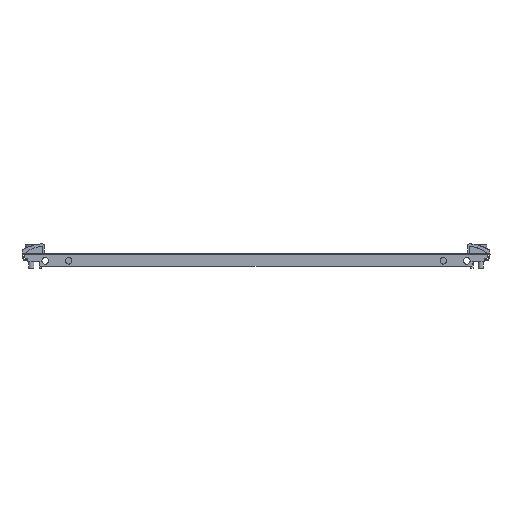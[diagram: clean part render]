
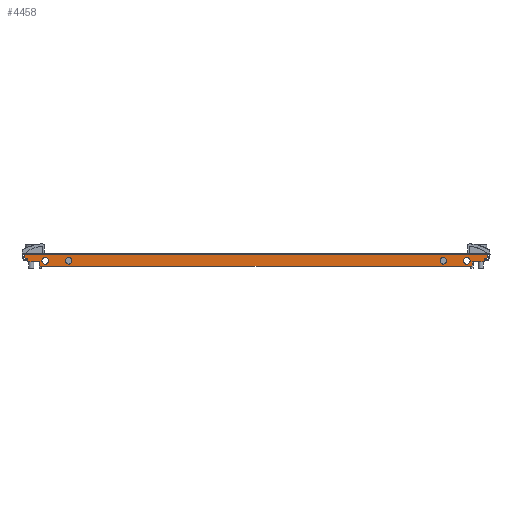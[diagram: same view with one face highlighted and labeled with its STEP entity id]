
A CAD part, front view. The second image highlights one B-rep face of the part: STEP entity #4458.
In plain terms, the highlighted planar face has unit normal (0, -1, 0).
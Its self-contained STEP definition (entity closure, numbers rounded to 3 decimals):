
#2=CARTESIAN_POINT('',(24.75,0.,6.));
#3=DIRECTION('',(0.,1.,0.));
#4=DIRECTION('',(0.,0.,-1.));
#5=AXIS2_PLACEMENT_3D('',#2,#3,#4);
#7=CARTESIAN_POINT('',(24.75,0.,6.));
#8=DIRECTION('',(0.,1.,0.));
#9=DIRECTION('',(0.,0.,1.));
#10=AXIS2_PLACEMENT_3D('',#7,#8,#9);
#12=CARTESIAN_POINT('',(473.95,0.,6.));
#13=DIRECTION('',(0.,1.,0.));
#14=DIRECTION('',(0.,0.,-1.));
#15=AXIS2_PLACEMENT_3D('',#12,#13,#14);
#17=CARTESIAN_POINT('',(473.95,0.,6.));
#18=DIRECTION('',(0.,1.,0.));
#19=DIRECTION('',(0.,0.,1.));
#20=AXIS2_PLACEMENT_3D('',#17,#18,#19);
#22=DIRECTION('',(0.,0.,-1.));
#23=VECTOR('',#22,2.543);
#24=CARTESIAN_POINT('',(2.281,0.,14.));
#25=LINE('',#24,#23);
#26=DIRECTION('',(0.,0.,-1.));
#27=VECTOR('',#26,2.543);
#28=CARTESIAN_POINT('',(496.419,0.,14.));
#29=LINE('',#28,#27);
#30=DIRECTION('',(0.259,0.,0.966));
#31=VECTOR('',#30,3.579);
#32=CARTESIAN_POINT('',(495.492,0.,8.));
#33=LINE('',#32,#31);
#34=DIRECTION('',(1.,0.,0.));
#35=VECTOR('',#34,3.042);
#36=CARTESIAN_POINT('',(492.45,0.,8.));
#37=LINE('',#36,#35);
#38=DIRECTION('',(0.,0.,1.));
#39=VECTOR('',#38,2.85);
#40=CARTESIAN_POINT('',(492.45,0.,5.15));
#41=LINE('',#40,#39);
#42=DIRECTION('',(1.,0.,0.));
#43=VECTOR('',#42,12.5);
#44=CARTESIAN_POINT('',(479.95,0.,5.15));
#45=LINE('',#44,#43);
#46=DIRECTION('',(0.,0.,1.));
#47=VECTOR('',#46,3.15);
#48=CARTESIAN_POINT('',(479.95,0.,2.));
#49=LINE('',#48,#47);
#50=DIRECTION('',(0.447,0.,0.894));
#51=VECTOR('',#50,2.236);
#52=CARTESIAN_POINT('',(478.95,0.,0.));
#53=LINE('',#52,#51);
#54=DIRECTION('',(1.,0.,0.));
#55=VECTOR('',#54,459.2);
#56=CARTESIAN_POINT('',(19.75,0.,0.));
#57=LINE('',#56,#55);
#58=DIRECTION('',(0.447,0.,-0.894));
#59=VECTOR('',#58,2.236);
#60=CARTESIAN_POINT('',(18.75,0.,2.));
#61=LINE('',#60,#59);
#62=DIRECTION('',(0.,0.,-1.));
#63=VECTOR('',#62,3.15);
#64=CARTESIAN_POINT('',(18.75,0.,5.15));
#65=LINE('',#64,#63);
#66=DIRECTION('',(1.,0.,0.));
#67=VECTOR('',#66,12.5);
#68=CARTESIAN_POINT('',(6.25,0.,5.15));
#69=LINE('',#68,#67);
#70=DIRECTION('',(0.,0.,-1.));
#71=VECTOR('',#70,2.85);
#72=CARTESIAN_POINT('',(6.25,0.,8.));
#73=LINE('',#72,#71);
#74=DIRECTION('',(1.,0.,0.));
#75=VECTOR('',#74,3.042);
#76=CARTESIAN_POINT('',(3.208,0.,8.));
#77=LINE('',#76,#75);
#78=DIRECTION('',(0.259,0.,-0.966));
#79=VECTOR('',#78,3.579);
#80=CARTESIAN_POINT('',(2.281,0.,11.457));
#81=LINE('',#80,#79);
#82=CARTESIAN_POINT('',(448.95,0.,6.));
#83=DIRECTION('',(0.,1.,0.));
#84=DIRECTION('',(-1.,0.,0.));
#85=AXIS2_PLACEMENT_3D('',#82,#83,#84);
#87=CARTESIAN_POINT('',(448.95,0.,6.));
#88=DIRECTION('',(0.,1.,0.));
#89=DIRECTION('',(1.,0.,0.));
#90=AXIS2_PLACEMENT_3D('',#87,#88,#89);
#92=CARTESIAN_POINT('',(49.75,0.,6.));
#93=DIRECTION('',(0.,1.,0.));
#94=DIRECTION('',(-1.,0.,0.));
#95=AXIS2_PLACEMENT_3D('',#92,#93,#94);
#97=CARTESIAN_POINT('',(49.75,0.,6.));
#98=DIRECTION('',(0.,1.,0.));
#99=DIRECTION('',(1.,0.,0.));
#100=AXIS2_PLACEMENT_3D('',#97,#98,#99);
#310=DIRECTION('',(1.,0.,0.));
#311=VECTOR('',#310,494.137);
#312=CARTESIAN_POINT('',(2.281,0.,14.));
#313=LINE('',#312,#311);
#3536=CARTESIAN_POINT('',(24.75,0.,2.35));
#3538=VERTEX_POINT('',#3536);
#3540=CARTESIAN_POINT('',(24.75,0.,9.65));
#3542=VERTEX_POINT('',#3540);
#3544=CARTESIAN_POINT('',(2.281,0.,11.457));
#3546=VERTEX_POINT('',#3544);
#3548=CARTESIAN_POINT('',(3.208,0.,8.));
#3550=VERTEX_POINT('',#3548);
#3552=CARTESIAN_POINT('',(6.25,0.,8.));
#3554=VERTEX_POINT('',#3552);
#3556=CARTESIAN_POINT('',(6.25,0.,5.15));
#3558=VERTEX_POINT('',#3556);
#3560=CARTESIAN_POINT('',(18.75,0.,5.15));
#3562=VERTEX_POINT('',#3560);
#3564=CARTESIAN_POINT('',(18.75,0.,2.));
#3566=VERTEX_POINT('',#3564);
#3572=CARTESIAN_POINT('',(473.95,0.,2.35));
#3574=VERTEX_POINT('',#3572);
#3576=CARTESIAN_POINT('',(473.95,0.,9.65));
#3578=VERTEX_POINT('',#3576);
#3580=CARTESIAN_POINT('',(479.95,0.,2.));
#3582=VERTEX_POINT('',#3580);
#3584=CARTESIAN_POINT('',(479.95,0.,5.15));
#3586=VERTEX_POINT('',#3584);
#3588=CARTESIAN_POINT('',(492.45,0.,5.15));
#3590=VERTEX_POINT('',#3588);
#3592=CARTESIAN_POINT('',(492.45,0.,8.));
#3594=VERTEX_POINT('',#3592);
#3596=CARTESIAN_POINT('',(495.492,0.,8.));
#3598=VERTEX_POINT('',#3596);
#3600=CARTESIAN_POINT('',(496.419,0.,11.457));
#3602=VERTEX_POINT('',#3600);
#3604=CARTESIAN_POINT('',(2.281,0.,14.));
#3605=VERTEX_POINT('',#3604);
#3606=CARTESIAN_POINT('',(19.75,0.,0.));
#3607=VERTEX_POINT('',#3606);
#3608=CARTESIAN_POINT('',(478.95,0.,0.));
#3609=VERTEX_POINT('',#3608);
#3610=CARTESIAN_POINT('',(496.419,0.,14.));
#3611=VERTEX_POINT('',#3610);
#3736=CARTESIAN_POINT('',(445.45,0.,6.));
#3737=CARTESIAN_POINT('',(452.45,0.,6.));
#3738=VERTEX_POINT('',#3736);
#3739=VERTEX_POINT('',#3737);
#3740=CARTESIAN_POINT('',(46.25,0.,6.));
#3741=CARTESIAN_POINT('',(53.25,0.,6.));
#3742=VERTEX_POINT('',#3740);
#3743=VERTEX_POINT('',#3741);
#4395=CARTESIAN_POINT('',(0.,0.,0.));
#4396=DIRECTION('',(0.,-1.,0.));
#4397=DIRECTION('',(0.,0.,1.));
#4398=AXIS2_PLACEMENT_3D('',#4395,#4396,#4397);
#4399=PLANE('',#4398);
#4401=ORIENTED_EDGE('',*,*,#4400,.F.);
#4403=ORIENTED_EDGE('',*,*,#4402,.T.);
#4405=ORIENTED_EDGE('',*,*,#4404,.T.);
#4407=ORIENTED_EDGE('',*,*,#4406,.F.);
#4409=ORIENTED_EDGE('',*,*,#4408,.F.);
#4411=ORIENTED_EDGE('',*,*,#4410,.F.);
#4413=ORIENTED_EDGE('',*,*,#4412,.F.);
#4415=ORIENTED_EDGE('',*,*,#4414,.F.);
#4417=ORIENTED_EDGE('',*,*,#4416,.F.);
#4419=ORIENTED_EDGE('',*,*,#4418,.F.);
#4421=ORIENTED_EDGE('',*,*,#4420,.F.);
#4423=ORIENTED_EDGE('',*,*,#4422,.F.);
#4425=ORIENTED_EDGE('',*,*,#4424,.F.);
#4427=ORIENTED_EDGE('',*,*,#4426,.F.);
#4429=ORIENTED_EDGE('',*,*,#4428,.F.);
#4431=ORIENTED_EDGE('',*,*,#4430,.F.);
#4432=EDGE_LOOP('',(#4401,#4403,#4405,#4407,#4409,#4411,#4413,#4415,#4417,#4419,
#4421,#4423,#4425,#4427,#4429,#4431));
#4433=FACE_OUTER_BOUND('',#4432,.F.);
#4435=ORIENTED_EDGE('',*,*,#4434,.F.);
#4437=ORIENTED_EDGE('',*,*,#4436,.F.);
#4438=EDGE_LOOP('',(#4435,#4437));
#4439=FACE_BOUND('',#4438,.F.);
#4441=ORIENTED_EDGE('',*,*,#4440,.F.);
#4443=ORIENTED_EDGE('',*,*,#4442,.F.);
#4444=EDGE_LOOP('',(#4441,#4443));
#4445=FACE_BOUND('',#4444,.F.);
#4447=ORIENTED_EDGE('',*,*,#4446,.F.);
#4449=ORIENTED_EDGE('',*,*,#4448,.F.);
#4450=EDGE_LOOP('',(#4447,#4449));
#4451=FACE_BOUND('',#4450,.F.);
#4453=ORIENTED_EDGE('',*,*,#4452,.F.);
#4455=ORIENTED_EDGE('',*,*,#4454,.F.);
#4456=EDGE_LOOP('',(#4453,#4455));
#4457=FACE_BOUND('',#4456,.F.);
#6=CIRCLE('',#5,3.65);
#11=CIRCLE('',#10,3.65);
#16=CIRCLE('',#15,3.65);
#21=CIRCLE('',#20,3.65);
#86=CIRCLE('',#85,3.5);
#91=CIRCLE('',#90,3.5);
#96=CIRCLE('',#95,3.5);
#101=CIRCLE('',#100,3.5);
#4400=EDGE_CURVE('',#3605,#3546,#25,.T.);
#4402=EDGE_CURVE('',#3605,#3611,#313,.T.);
#4404=EDGE_CURVE('',#3611,#3602,#29,.T.);
#4406=EDGE_CURVE('',#3598,#3602,#33,.T.);
#4408=EDGE_CURVE('',#3594,#3598,#37,.T.);
#4410=EDGE_CURVE('',#3590,#3594,#41,.T.);
#4412=EDGE_CURVE('',#3586,#3590,#45,.T.);
#4414=EDGE_CURVE('',#3582,#3586,#49,.T.);
#4416=EDGE_CURVE('',#3609,#3582,#53,.T.);
#4418=EDGE_CURVE('',#3607,#3609,#57,.T.);
#4420=EDGE_CURVE('',#3566,#3607,#61,.T.);
#4422=EDGE_CURVE('',#3562,#3566,#65,.T.);
#4424=EDGE_CURVE('',#3558,#3562,#69,.T.);
#4426=EDGE_CURVE('',#3554,#3558,#73,.T.);
#4428=EDGE_CURVE('',#3550,#3554,#77,.T.);
#4430=EDGE_CURVE('',#3546,#3550,#81,.T.);
#4434=EDGE_CURVE('',#3574,#3578,#16,.T.);
#4436=EDGE_CURVE('',#3578,#3574,#21,.T.);
#4440=EDGE_CURVE('',#3538,#3542,#6,.T.);
#4442=EDGE_CURVE('',#3542,#3538,#11,.T.);
#4446=EDGE_CURVE('',#3738,#3739,#86,.T.);
#4448=EDGE_CURVE('',#3739,#3738,#91,.T.);
#4452=EDGE_CURVE('',#3742,#3743,#96,.T.);
#4454=EDGE_CURVE('',#3743,#3742,#101,.T.);
#4458=ADVANCED_FACE('',(#4433,#4439,#4445,#4451,#4457),#4399,.T.);
